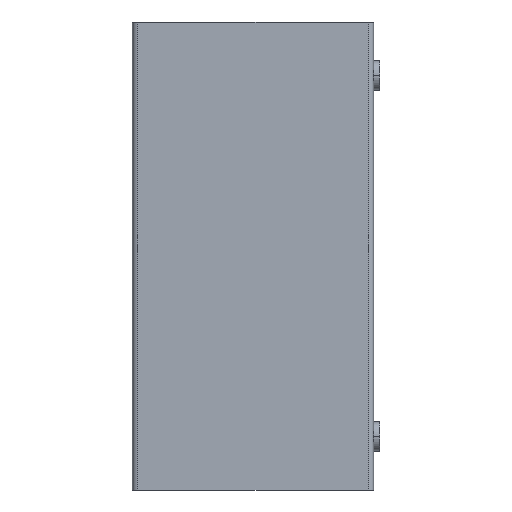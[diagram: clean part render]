
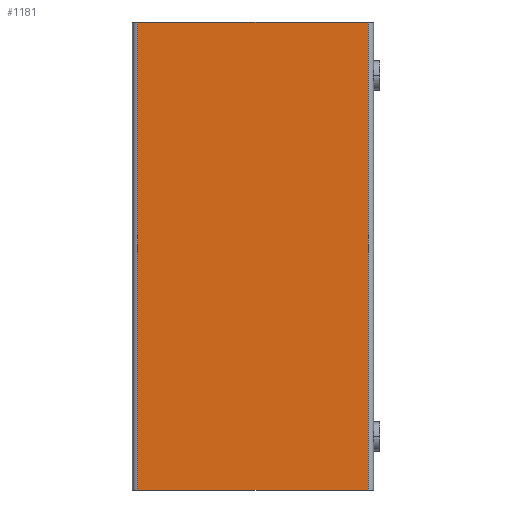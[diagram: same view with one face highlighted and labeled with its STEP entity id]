
A CAD part, left-side view. The second image highlights one B-rep face of the part: STEP entity #1181.
In plain terms, the highlighted planar face has unit normal (-1, 0, 0).
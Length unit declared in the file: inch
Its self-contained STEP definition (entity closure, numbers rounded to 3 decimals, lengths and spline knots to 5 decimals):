
#6=DIRECTION('',(0.,-1.,0.));
#7=VECTOR('',#6,3.452);
#8=CARTESIAN_POINT('',(-0.64,3.529,-3.5));
#9=LINE('',#8,#7);
#338=DIRECTION('',(0.,-1.,0.));
#339=VECTOR('',#338,3.452);
#340=CARTESIAN_POINT('',(-0.64,3.529,3.5));
#341=LINE('',#340,#339);
#413=DIRECTION('',(0.,0.,-1.));
#414=VECTOR('',#413,7.);
#415=CARTESIAN_POINT('',(-0.64,0.077,3.5));
#416=LINE('',#415,#414);
#422=DIRECTION('',(0.,0.,-1.));
#423=VECTOR('',#422,7.);
#424=CARTESIAN_POINT('',(-0.64,3.529,3.5));
#425=LINE('',#424,#423);
#498=CARTESIAN_POINT('',(-0.64,3.529,3.5));
#499=CARTESIAN_POINT('',(-0.64,3.529,-3.5));
#500=VERTEX_POINT('',#498);
#501=VERTEX_POINT('',#499);
#510=CARTESIAN_POINT('',(-0.64,0.077,-3.5));
#511=VERTEX_POINT('',#510);
#512=CARTESIAN_POINT('',(-0.64,0.077,3.5));
#513=VERTEX_POINT('',#512);
#1169=CARTESIAN_POINT('',(-0.64,3.606,-3.5));
#1170=DIRECTION('',(-1.,0.,0.));
#1171=DIRECTION('',(0.,-1.,0.));
#1172=AXIS2_PLACEMENT_3D('',#1169,#1170,#1171);
#1173=PLANE('',#1172);
#1175=ORIENTED_EDGE('',*,*,#1174,.F.);
#1176=ORIENTED_EDGE('',*,*,#1085,.T.);
#1177=ORIENTED_EDGE('',*,*,#1163,.T.);
#1178=ORIENTED_EDGE('',*,*,#589,.F.);
#1179=EDGE_LOOP('',(#1175,#1176,#1177,#1178));
#1180=FACE_OUTER_BOUND('',#1179,.F.);
#1181=ADVANCED_FACE('',(#1180),#1173,.T.);
#589=EDGE_CURVE('',#501,#511,#9,.T.);
#1085=EDGE_CURVE('',#500,#513,#341,.T.);
#1163=EDGE_CURVE('',#513,#511,#416,.T.);
#1174=EDGE_CURVE('',#500,#501,#425,.T.);
